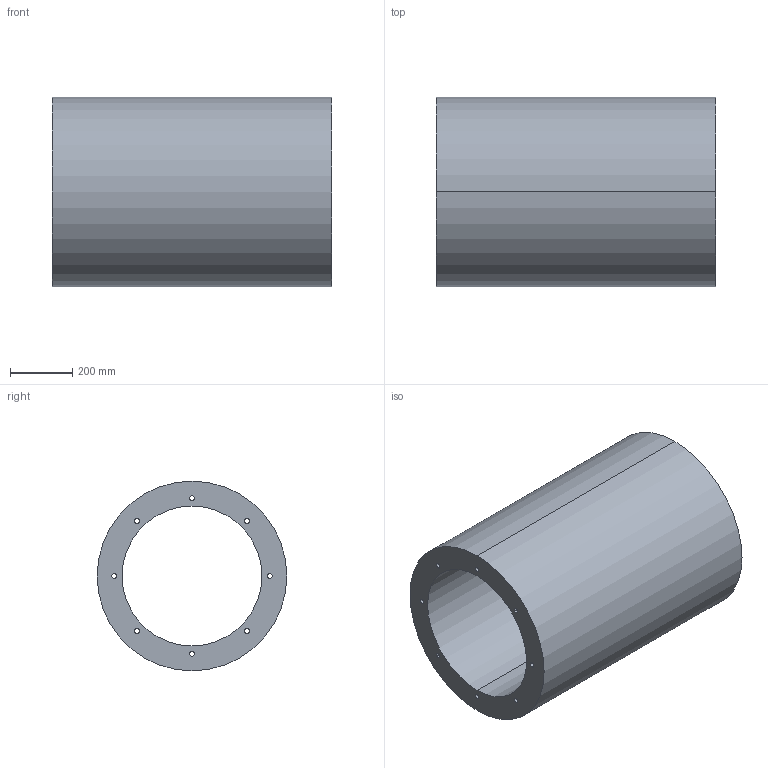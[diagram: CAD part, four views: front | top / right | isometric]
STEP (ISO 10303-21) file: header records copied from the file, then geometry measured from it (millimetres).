
FILE_DESCRIPTION(('STEP AP214'),'1');
FILE_NAME('accessory_5211810400.stp','2017-10-09T11:37:39',('TraceParts'),('TraceParts S.A.'),'Spatial InterOp 3D',' ',' ');
FILE_SCHEMA(('automotive_design'));
Length unit declared in the file: millimetre
Products named in the file (1): accessory_5211810400
Bounding box: 900 x 610 x 610 mm (x, y, z)
Volume: 118435529.8 mm3; surface area: 3622180.9 mm2
Topology: 1 solids, 1 shells, 22 faces, 60 edges, 40 vertices
Faces by surface type: cylinder 20, plane 2
Entity records: 952 total; most frequent: DIRECTION 146, CARTESIAN_POINT 123, ORIENTED_EDGE 120, AXIS2_PLACEMENT_3D 63, EDGE_CURVE 60, EDGE_LOOP 40, VERTEX_POINT 40, CIRCLE 40
